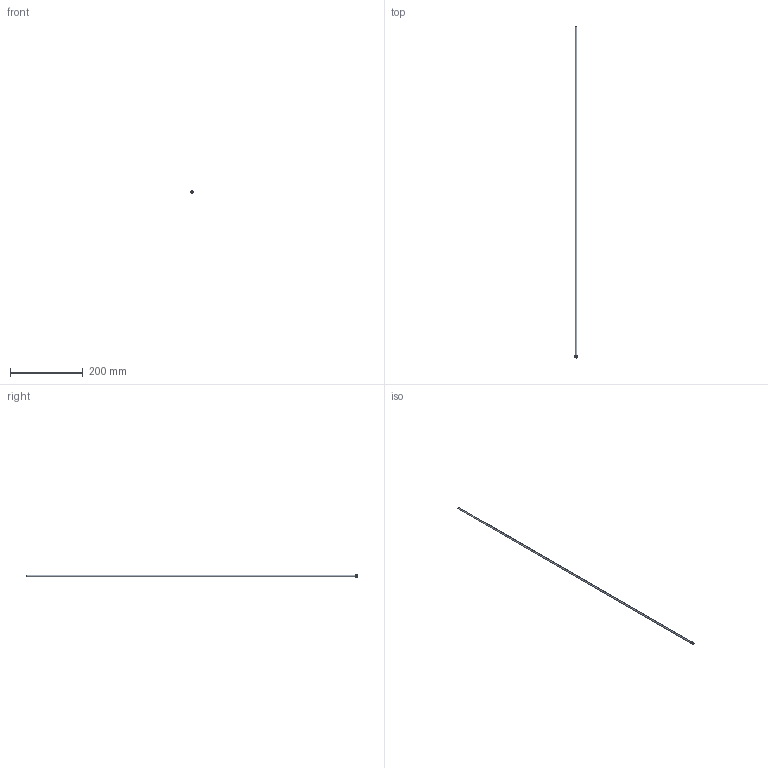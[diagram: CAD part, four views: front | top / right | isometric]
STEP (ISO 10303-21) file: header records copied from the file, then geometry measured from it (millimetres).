
FILE_DESCRIPTION(/* description */ (''),/* implementation_level */ '2;1');
FILE_NAME(/* name */ 'C:/Users/drich/Desktop/HF187T-36 v2.step',/* time_stamp */ '2019-12-30T13:34:04-06:00',/* author */ (''),/* organization */ (''),/* preprocessor_version */ 'ST-DEVELOPER v18',/* originating_system */ 'Autodesk Translation Framework v8.12.0.6',/* authorisation */ '');
FILE_SCHEMA (('AUTOMOTIVE_DESIGN { 1 0 10303 214 3 1 1 }'));
Length unit declared in the file: inch
Products named in the file (1): HF187T-36
Bounding box: 6.4 x 914.4 x 6.4 mm (x, y, z)
Volume: 3364.9 mm3; surface area: 25889 mm2
Topology: 1 solids, 1 shells, 12 faces, 30 edges, 22 vertices
Faces by surface type: plane 4, cylinder 4, torus 3, cone 1
Full cylindrical faces by diameter (mm): 4.242 x1, 4.75 x1, 6.243 x1, 6.401 x1
Entity records: 426 total; most frequent: DIRECTION 81, CARTESIAN_POINT 65, ORIENTED_EDGE 60, AXIS2_PLACEMENT_3D 38, EDGE_CURVE 30, CIRCLE 25, VERTEX_POINT 22, EDGE_LOOP 16
